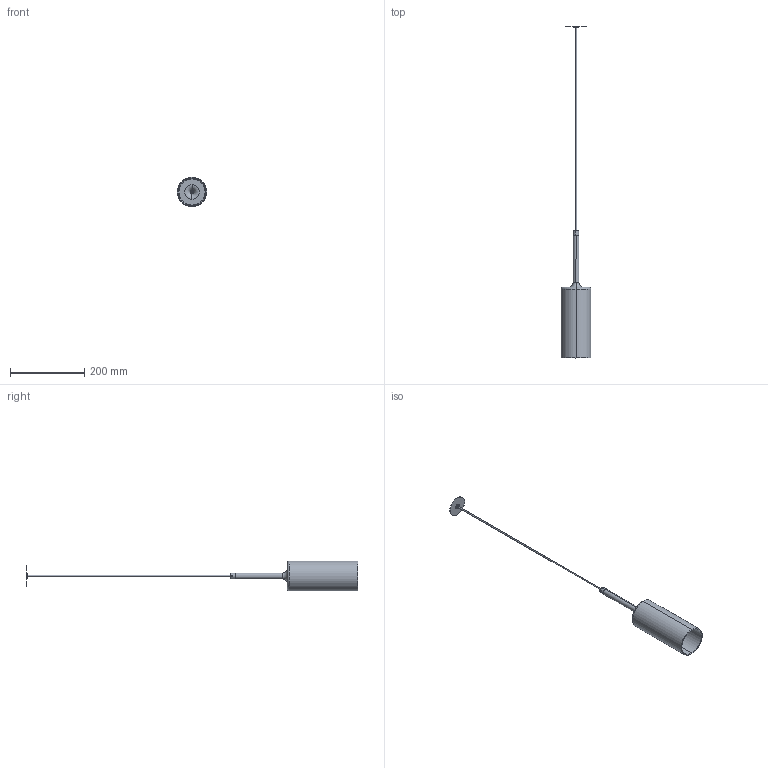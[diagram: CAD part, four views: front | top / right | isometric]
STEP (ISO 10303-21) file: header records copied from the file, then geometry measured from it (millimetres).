
FILE_DESCRIPTION (( 'STEP AP203' ), '1' );
FILE_NAME ('SPSPILP01IXXXXX-PER 3D.STEP', '2025-06-25T14:11:30', ( '' ), ( '' ), 'SwSTEP 2.0', 'SolidWorks 2024', '' );
FILE_SCHEMA (( 'CONFIG_CONTROL_DESIGN' ));
Length unit declared in the file: millimetre
Products named in the file (8): WSM2G1522-FR------; CAVO NL2CN_CAVO NL2CN; WSCM2C0165-0100-00; PENDENTE SPILLRAY EVO P-00; VSPILLRAYPCS; SPSPILP01IXXXXX-PER 3D; WSASS-000000047-00; WSCM2A0119-0700-00
Assembly tree (7 placements, depth 3):
  SPSPILP01IXXXXX-PER 3D
    WSASS-000000047-00
      WSCM2C0165-0100-00
      WSM2G1522-FR------
    PENDENTE SPILLRAY EVO P-00
      WSCM2A0119-0700-00
      CAVO NL2CN_CAVO NL2CN
      VSPILLRAYPCS
Bounding box: 80 x 892.42 x 80 mm (x, y, z)
Volume: 157312.7 mm3; surface area: 134092.2 mm2
Topology: 8 solids, 8 shells, 111 faces, 218 edges, 128 vertices
Faces by surface type: cylinder 46, torus 24, plane 23, cone 16, bspline 2
Entity records: 3958 total; most frequent: CARTESIAN_POINT 719, DIRECTION 594, ORIENTED_EDGE 436, AXIS2_PLACEMENT_3D 263, EDGE_CURVE 218, CIRCLE 142, VERTEX_POINT 128, EDGE_LOOP 126
